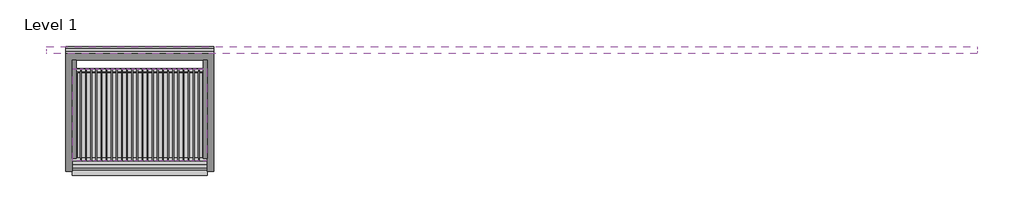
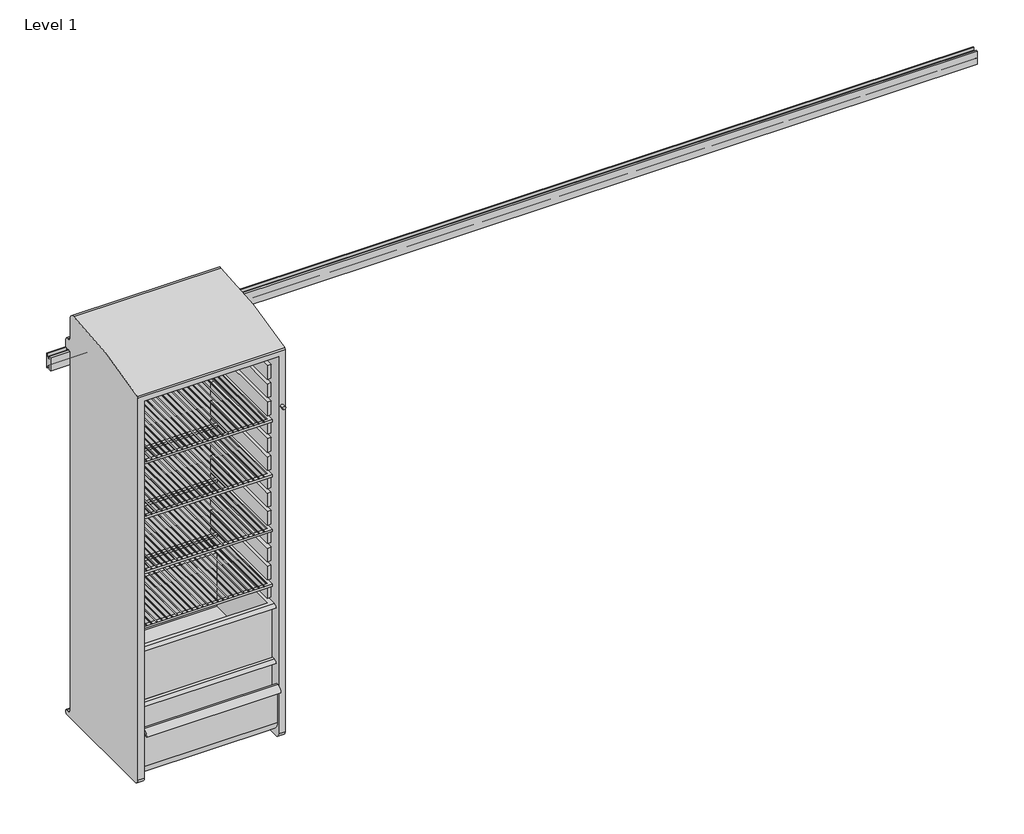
# One storey, incomplete: 8 furniture elements.
"""IFC4 building model written with IfcOpenShell, lengths in millimetres."""

from ifc_helpers import new_model, si_unit, origin, place, context, project, spatial, transform, mapped, element, save
from components import furniture_46a5a3ee, furniture_0da3120b, furniture_ac1c1512, furniture_2e5dc451, furniture_ac9ddba1, c_9_c4f12e08, c_9_236a4160, standard_144w_a9847ba4

model = new_model("IFC4")

# Units and contexts
model_context = context("Model", 3, world=origin())
ifc_project = project(units=[si_unit("LENGTHUNIT", "METRE", prefix="MILLI")], contexts=[model_context])

# Site, building, storey
site = spatial("IfcSite", under=ifc_project)
building = spatial("IfcBuilding", under=site)
storey = spatial("IfcBuildingStorey", under=building, Name="Level 1", Elevation=0.0)

# Furniture
placement = place(None, origin())
furniture_shape = furniture_46a5a3ee(model_context)
element("IfcFurniture", 1, ObjectType="HermanMiller_CoStruc_CO252_CWireShelf : 14D x 20W", at=placement, inside=storey, context=model_context, shape_type="MappedRepresentation", body=[
    mapped(furniture_shape, transform((1789.17092, -269.14602, 0.0), x_axis=(1.0, 0.0, 0.0), y_axis=(0.0, 1.0, 0.0), z_axis=(0.0, 0.0, 1.0))),
])
furniture_2_shape = furniture_0da3120b(model_context)
element("IfcFurniture", 2, ObjectType="HermanMiller_CoStruc_CO252_CWireShelf : 14D x 20W", at=placement, inside=storey, context=model_context, shape_type="MappedRepresentation", body=[
    mapped(furniture_2_shape, transform((1789.17092, -269.14602, 0.0), x_axis=(1.0, 0.0, 0.0), y_axis=(0.0, 1.0, 0.0), z_axis=(0.0, 0.0, 1.0))),
])
furniture_3_shape = furniture_ac1c1512(model_context)
element("IfcFurniture", 3, ObjectType="HermanMiller_CoStruc_CO252_CWireShelf : 14D x 20W", at=placement, inside=storey, context=model_context, shape_type="MappedRepresentation", body=[
    mapped(furniture_3_shape, transform((1789.17092, -269.14602, 0.0), x_axis=(1.0, 0.0, 0.0), y_axis=(0.0, 1.0, 0.0), z_axis=(0.0, 0.0, 1.0))),
])
furniture_4_shape = furniture_2e5dc451(model_context)
element("IfcFurniture", 4, ObjectType="HermanMiller_CoStruc_CO252_CWireShelf : 14D x 20W", at=placement, inside=storey, context=model_context, shape_type="MappedRepresentation", body=[
    mapped(furniture_4_shape, transform((1789.17092, -269.14602, 0.0), x_axis=(1.0, 0.0, 0.0), y_axis=(0.0, 1.0, 0.0), z_axis=(0.0, 0.0, 1.0))),
])
furniture_5_shape = furniture_ac9ddba1(model_context)
element("IfcFurniture", 5, ObjectType="HermanMiller_CoStruc_CO561_LockerWithTambourDoor : 66\"H x 20\"D x 22\"W Wlock", at=placement, inside=storey, context=model_context, shape_type="MappedRepresentation", body=[
    mapped(furniture_5_shape, transform((1789.1125, -246.0625, 0.0), x_axis=(1.0, 0.0, 0.0), y_axis=(0.0, 1.0, 0.0), z_axis=(0.0, 0.0, 1.0))),
])
c_9_shape = c_9_c4f12e08(model_context)
element("IfcFurniture", 6, ObjectType="HermanMiller_CoStruc_CO207_Drawer : C - 9", at=placement, inside=storey, context=model_context, shape_type="MappedRepresentation", body=[
    mapped(c_9_shape, transform((1789.1035717, -281.84602, 0.0), x_axis=(1.0, 0.0, 0.0), y_axis=(0.0, 1.0, 0.0), z_axis=(0.0, 0.0, 1.0))),
])
c_9_2_shape = c_9_236a4160(model_context)
element("IfcFurniture", 7, ObjectType="HermanMiller_CoStruc_CO207_Drawer : C - 9", at=placement, inside=storey, context=model_context, shape_type="MappedRepresentation", body=[
    mapped(c_9_2_shape, transform((1789.1035717, -281.84602, 0.0), x_axis=(1.0, 0.0, 0.0), y_axis=(0.0, 1.0, 0.0), z_axis=(0.0, 0.0, 1.0))),
])
standard_144w_shape = standard_144w_a9847ba4(model_context)
element("IfcFurniture", 8, ObjectType="HermanMiller_CoStruc_CO282_StandardRail : Standard 144W", at=placement, inside=storey, context=model_context, shape_type="MappedRepresentation", body=[
    mapped(standard_144w_shape, transform((3318.5205525, 0.0, 0.0), x_axis=(1.0, 0.0, 0.0), y_axis=(0.0, 1.0, 0.0), z_axis=(0.0, 0.0, 1.0))),
])

save(model, "model.ifc")
